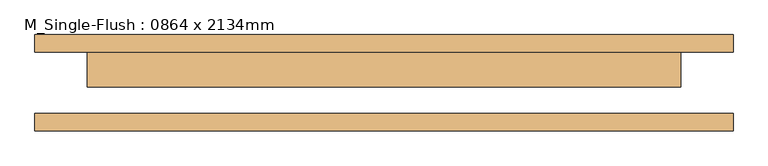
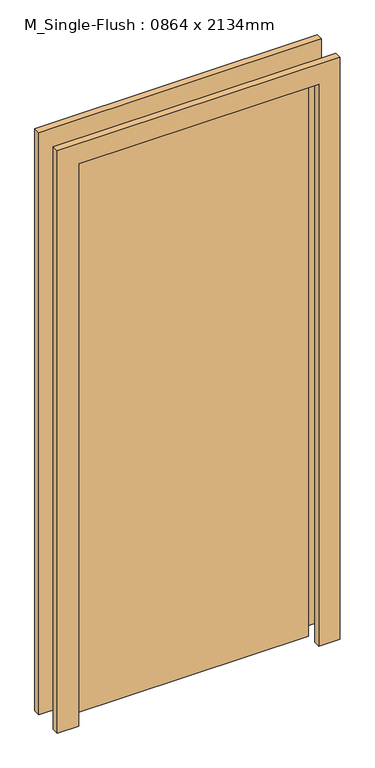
"""IFC4 building model written with IfcOpenShell, lengths in millimetres: door geometry, M_Single-Flush : 0864 x 2134mm."""

from ifc_helpers import new_model, si_unit, frame, origin, origin_with_axes, place, context, project, spatial, polyline, outline, extrude, source, transform, mapped, element, save


def m_single_flush_0864_x_2134mm_2f1c7364(model_context):
    return source(origin(), model_context, "Body", "SweptSolid", [
        extrude(outline(polyline([(2210.0, -508.0), (0.0, -508.0), (0.0, -432.0), (2134.0, -432.0), (2134.0, 432.0), (0.0, 432.0), (0.0, 508.0), (2210.0, 508.0), (2210.0, -508.0)])), frame((0.0, 45.0, 0.0), z_axis=(0.0, 1.0, 0.0), x_axis=(0.0, 0.0, 1.0)), (0.0, 0.0, 1.0), 25.0),
        extrude(outline(polyline([(2210.0, 508.0), (2210.0, -508.0), (0.0, -508.0), (0.0, -432.0), (2134.0, -432.0), (2134.0, 432.0), (0.0, 432.0), (0.0, 508.0), (2210.0, 508.0)])), frame((0.0, -70.0, 0.0), z_axis=(0.0, 1.0, 0.0), x_axis=(0.0, 0.0, 1.0)), (0.0, 0.0, 1.0), 25.0),
        extrude(outline(polyline([(432.0, -6.0), (-432.0, -6.0), (-432.0, 45.0), (432.0, 45.0), (432.0, -6.0)])), origin_with_axes(), (0.0, 0.0, 1.0), 2134.0),
    ])


if __name__ == "__main__":
    model = new_model("IFC4")
    model_context = context("Model", 3, world=origin())
    ifc_project = project(units=[si_unit("LENGTHUNIT", "METRE", prefix="MILLI")], contexts=[model_context])
    site = spatial("IfcSite", under=ifc_project)
    building = spatial("IfcBuilding", under=site)
    placement = place(None, origin())
    m_single_flush_0864_x_2134mm_shape = m_single_flush_0864_x_2134mm_2f1c7364(model_context)
    element("IfcDoor", 1, ObjectType="M_Single-Flush : 0864 x 2134mm", at=placement, inside=building, context=model_context, shape_type="MappedRepresentation", body=[
        mapped(m_single_flush_0864_x_2134mm_shape, transform((0.0, 0.0, 0.0), x_axis=(1.0, 0.0, 0.0), y_axis=(0.0, 1.0, 0.0), z_axis=(0.0, 0.0, 1.0))),
    ])
    save(model, "model.ifc")
